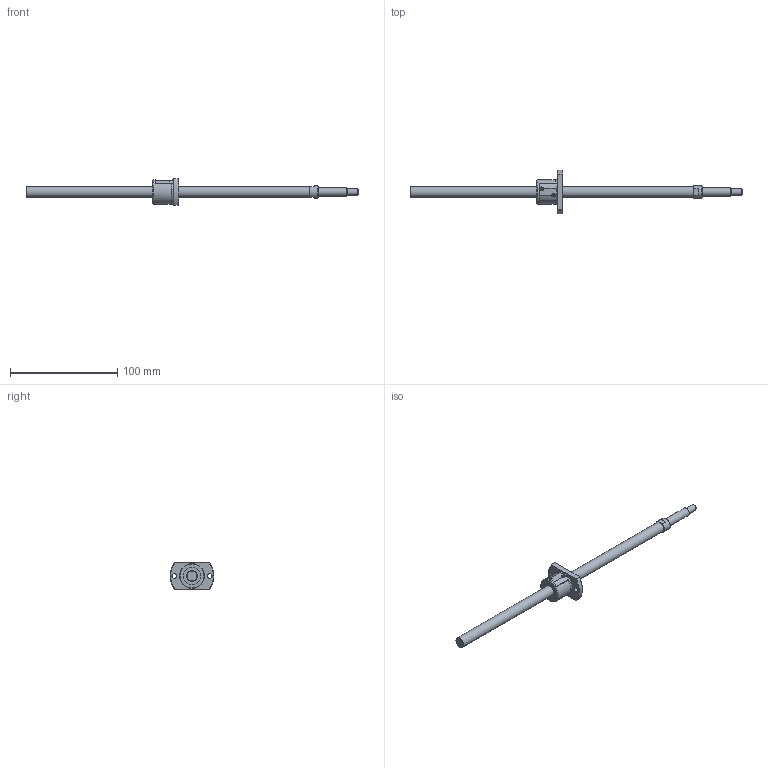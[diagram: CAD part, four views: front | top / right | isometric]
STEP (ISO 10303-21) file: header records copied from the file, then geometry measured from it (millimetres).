
FILE_DESCRIPTION(/* description */ ('STEP AP214'),/* implementation_level */ '2;1');
FILE_NAME(/* name */ 'SG1002-261R310C5A0X(118.5)',/* time_stamp */ '2026-07-24T15:14:25+02:00',/* author */ ('License CC BY-ND 4.0'),/* organization */ ('CADENAS'),/* preprocessor_version */ 'ST-DEVELOPER v20',/* originating_system */ 'PARTsolutions',/* authorisation */ ' ');
FILE_SCHEMA (('AUTOMOTIVE_DESIGN {1 0 10303 214 3 1 1}'));
Length unit declared in the file: millimetre
Products named in the file (3): SG1002-261R310C5A0X(118.5); SG1002-261R310C5A_shaft; SG1002 C5_nut
Assembly tree (2 placements, depth 2):
  SG1002-261R310C5A0X(118.5)
    SG1002-261R310C5A_shaft
    SG1002 C5_nut
Bounding box: 310 x 41 x 25 mm (x, y, z)
Volume: 33383.7 mm3; surface area: 14255.7 mm2
Topology: 2 solids, 2 shells, 72 faces, 177 edges, 116 vertices
Faces by surface type: plane 35, cylinder 23, cone 13, torus 1
Full cylindrical faces by diameter (mm): 4.5 x2, 6 x1, 8 x1, 10 x2, 11.5 x1, 16 x2, 22.6 x1, 23 x1
Entity records: 2057 total; most frequent: CARTESIAN_POINT 387, DIRECTION 346, ORIENTED_EDGE 292, EDGE_CURVE 146, AXIS2_PLACEMENT_3D 143, VERTEX_POINT 106, EDGE_LOOP 106, FACE_BOUND 106
